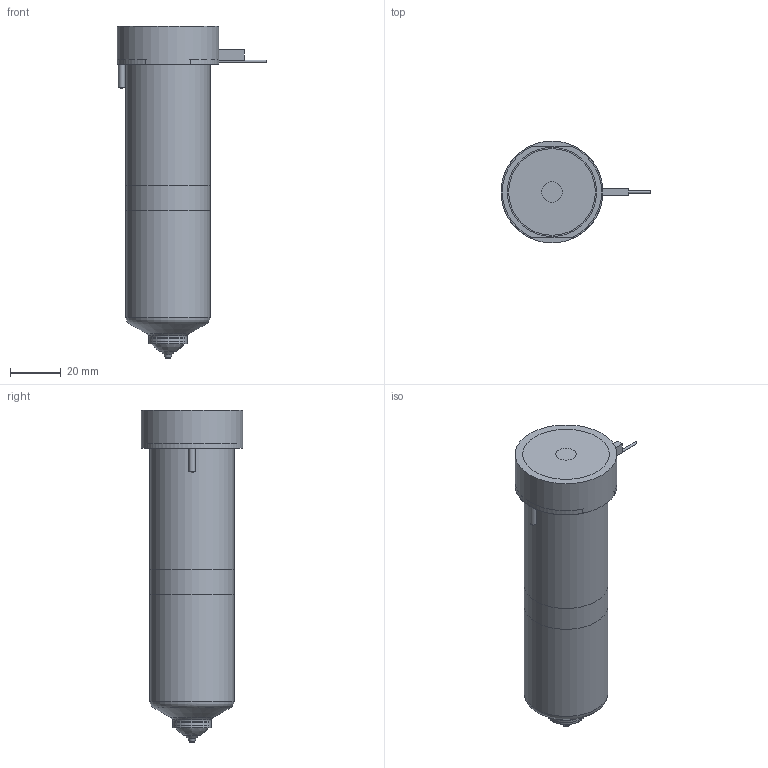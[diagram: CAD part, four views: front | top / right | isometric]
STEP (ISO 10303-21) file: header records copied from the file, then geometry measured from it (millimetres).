
FILE_DESCRIPTION(/* description */ (''),/* implementation_level */ '2;1');
FILE_NAME(/* name */ 'BXTV19115_200C_b',/* time_stamp */ '2007-01-18T10:02:06+13:00',/* author */ (''),/* organization */ (''),/* preprocessor_version */ 'ST-DEVELOPER v9',/* originating_system */ 'UGS - NX 4.0',/* authorisation */ '');
FILE_SCHEMA (('CONFIG_CONTROL_DESIGN'));
Length unit declared in the file: millimetre
Products named in the file (1): BXTV19115_200C_b
Bounding box: 58.85 x 40 x 130.3 mm (x, y, z)
Volume: 200757.8 mm3; surface area: 33257.8 mm2
Topology: 6 solids, 6 shells, 82 faces, 163 edges, 104 vertices
Faces by surface type: plane 36, cylinder 23, cone 13, torus 8, bspline 2
Full cylindrical faces by diameter (mm): 1 x3, 2.5 x2, 3 x1, 8 x1, 14.61 x1, 15.01 x2, 18.3 x1, 28.6 x1, 33 x2, 40 x1
Entity records: 2043 total; most frequent: CARTESIAN_POINT 427, DIRECTION 340, ORIENTED_EDGE 236, AXIS2_PLACEMENT_3D 151, EDGE_LOOP 128, EDGE_CURVE 118, VERTEX_POINT 95, ADVANCED_FACE 82
